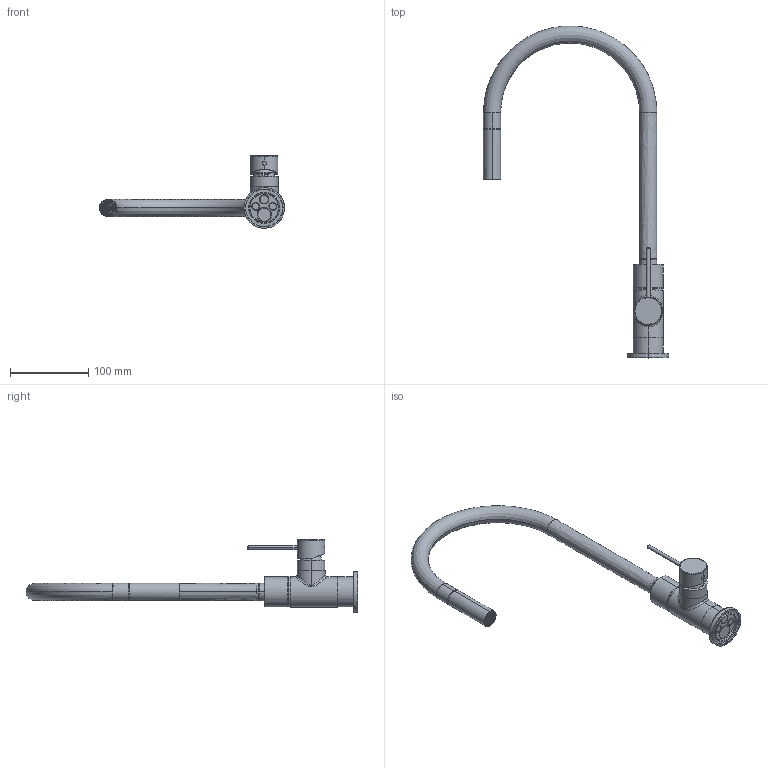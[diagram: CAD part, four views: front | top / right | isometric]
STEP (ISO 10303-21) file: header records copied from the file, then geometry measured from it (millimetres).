
FILE_DESCRIPTION (( 'STEP AP203' ), '1' );
FILE_NAME ('PF7225.STEP', '2022-02-07T08:35:04', ( '' ), ( '' ), 'SwSTEP 2.0', 'SolidWorks 2013', '' );
FILE_SCHEMA (( 'CONFIG_CONTROL_DESIGN' ));
Length unit declared in the file: millimetre
Products named in the file (19): P02-O-02-02; Y150299480; PF7503-08; PF7225; PF7225-01_ASM; PA-K-25; PF7225-01-02_AF0; PF7224-05; PF7224-22; PF7224-23; PF7503-07; PF7225-01-01_AF0; PF7224-08-02; PF7224-11; PF7224-07; PF7224-SPRAY-00_ASM; PF7224-08-01; PF7224-08_ASM
Assembly tree (19 placements, depth 3):
  PF7225
    PF7225-01_ASM
      PF7225-01_ASM
      PF7225-01-01_AF0
      PF7225-01-02_AF0
      P02-O-02-02  x2
    PF7224-08_ASM
      PF7224-08-01
      PF7224-08-02
      PF7224-05
      PF7224-07
    PF7224-SPRAY-00_ASM
      PF7224-11
      Y150299480
    PA-K-25
    PF7503-07
    PF7503-08
    PF7224-23
    PF7224-22
Bounding box: 237 x 425.09 x 92.8 mm (x, y, z)
Volume: 65848.4 mm3; surface area: 158510.7 mm2
Topology: 13 solids, 32 shells, 1137 faces, 3123 edges, 2046 vertices
Faces by surface type: plane 589, cylinder 297, cone 131, bspline 116, torus 4
Entity records: 54282 total; most frequent: CARTESIAN_POINT 23898, ORIENTED_EDGE 6132, DIRECTION 5411, EDGE_CURVE 3095, VERTEX_POINT 2040, LINE 1883, VECTOR 1883, AXIS2_PLACEMENT_3D 1764
